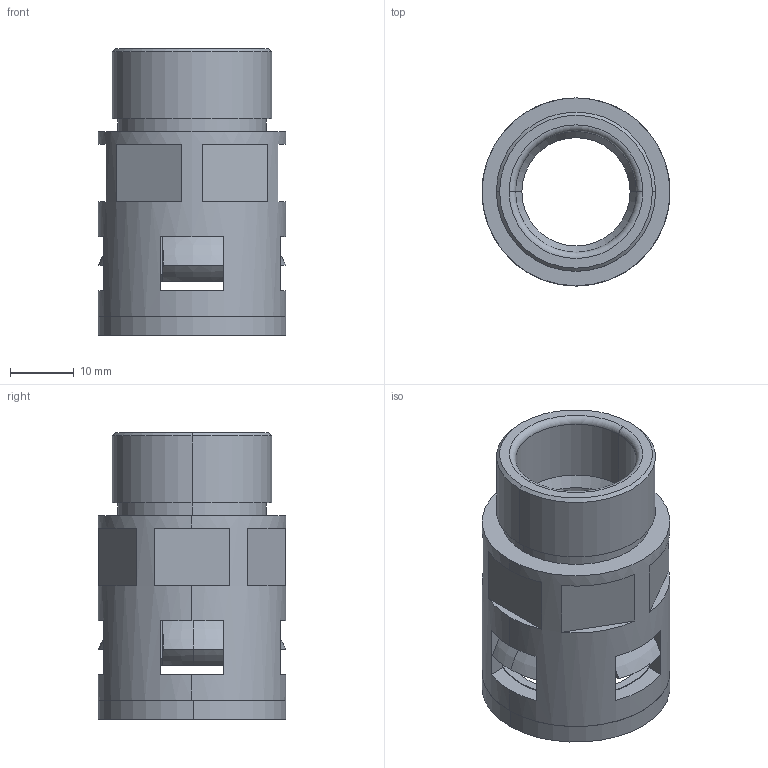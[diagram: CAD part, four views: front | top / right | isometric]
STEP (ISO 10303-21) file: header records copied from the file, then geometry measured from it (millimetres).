
FILE_DESCRIPTION (( 'STEP AP203' ), '1' );
FILE_NAME ('WQG-M25 AD21.2.STEP', '2013-12-10T08:46:53', ( 'User' ), ( 'Microsoft' ), 'SwSTEP 2.0', 'SolidWorks 2010', '' );
FILE_SCHEMA (( 'CONFIG_CONTROL_DESIGN' ));
Length unit declared in the file: millimetre
Products named in the file (4): WQG-M25 AD21.2; WQG-M25 AD21.2-01; GFD-AD21.2; NSK-AD21.2
Assembly tree (3 placements, depth 2):
  WQG-M25 AD21.2
    NSK-AD21.2
    WQG-M25 AD21.2-01
    GFD-AD21.2
Bounding box: 29.5 x 29.5 x 45 mm (x, y, z)
Volume: 11477.2 mm3; surface area: 15406.7 mm2
Topology: 6 solids, 7 shells, 246 faces, 594 edges, 360 vertices
Faces by surface type: plane 99, cone 77, torus 36, cylinder 34
Entity records: 7752 total; most frequent: CARTESIAN_POINT 1382, DIRECTION 1370, ORIENTED_EDGE 1188, EDGE_CURVE 594, AXIS2_PLACEMENT_3D 548, VERTEX_POINT 360, CIRCLE 296, VECTOR 274
